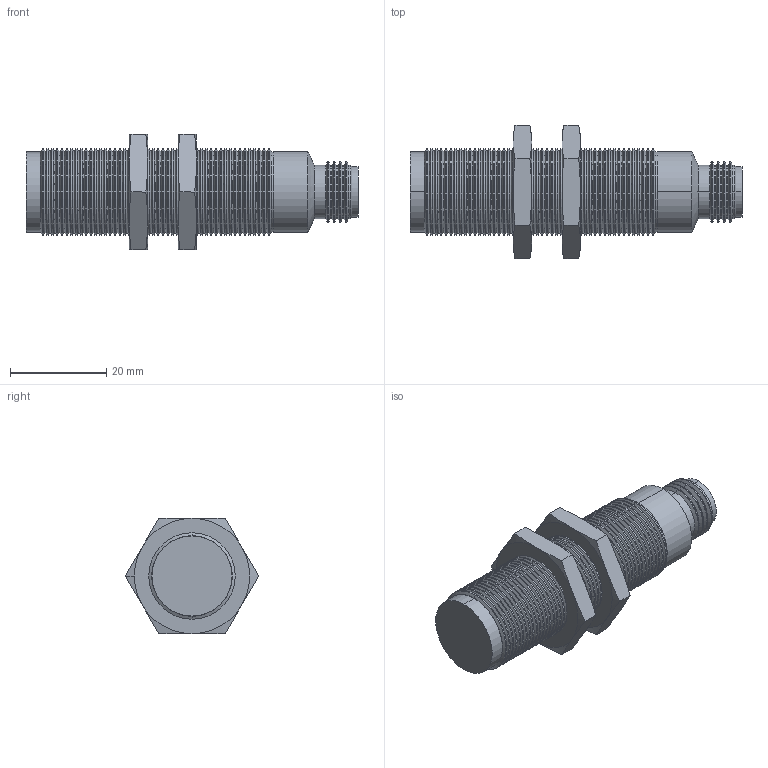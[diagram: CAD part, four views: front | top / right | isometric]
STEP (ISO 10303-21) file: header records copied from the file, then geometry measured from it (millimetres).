
FILE_DESCRIPTION (( 'STEP AP203' ), '1' );
FILE_NAME ('90-XXXX-034.STEP', '2015-08-31T03:37:32', ( 'Sam' ), ( 'Spade' ), 'SwSTEP 2.0', 'SolidWorks 2002296', '' );
FILE_SCHEMA (( 'CONFIG_CONTROL_DESIGN' ));
Length unit declared in the file: inch
Products named in the file (9): 90-XXXX-034; Imported187; Imported186; Imported185; Imported192; Imported191; Imported190; Imported189; Imported188
Assembly tree (8 placements, depth 2):
  90-XXXX-034
    Imported191
    Imported188
    Imported186
    Imported185
    Imported190
    Imported189
    Imported187
    Imported192
Bounding box: 69.04 x 27.69 x 23.98 mm (x, y, z)
Volume: 16716.5 mm3; surface area: 9382.4 mm2
Topology: 8 solids, 8 shells, 458 faces, 1071 edges, 631 vertices
Faces by surface type: cone 274, cylinder 141, plane 37, bspline 6
Entity records: 14134 total; most frequent: DIRECTION 2545, CARTESIAN_POINT 2399, ORIENTED_EDGE 2130, EDGE_CURVE 1065, AXIS2_PLACEMENT_3D 1065, VERTEX_POINT 631, CIRCLE 602, EDGE_LOOP 470
